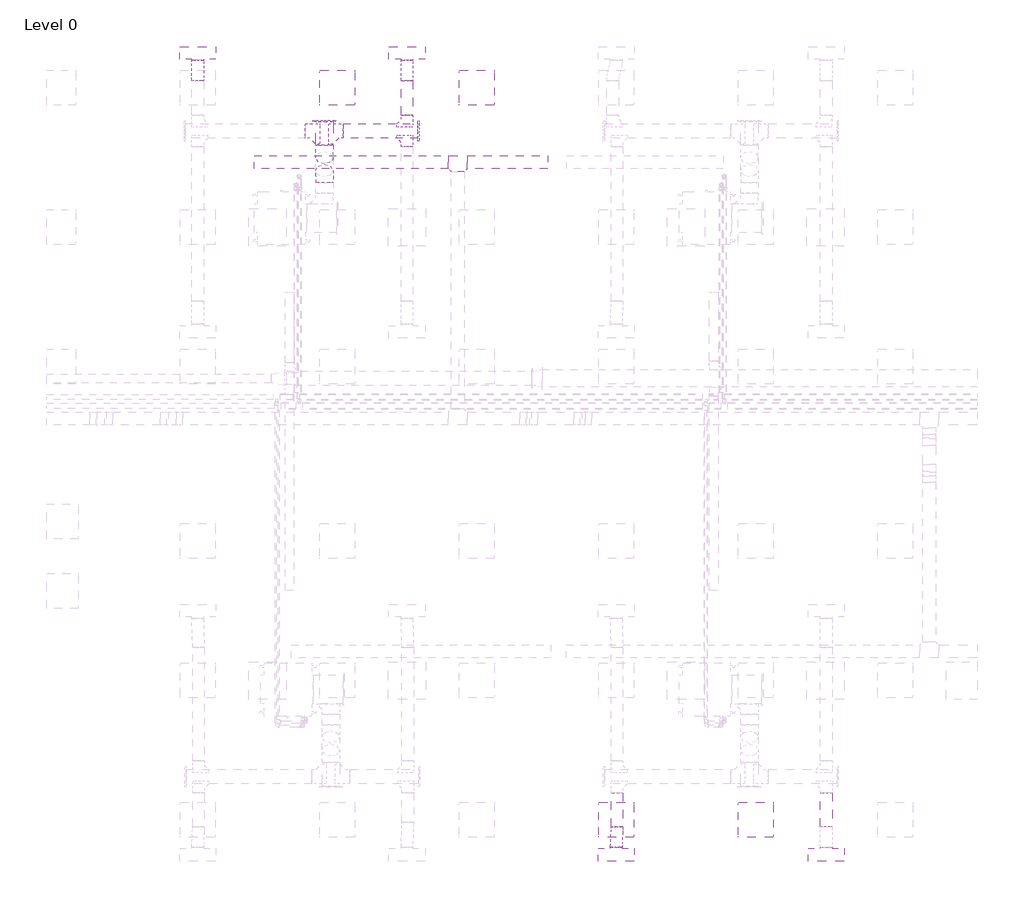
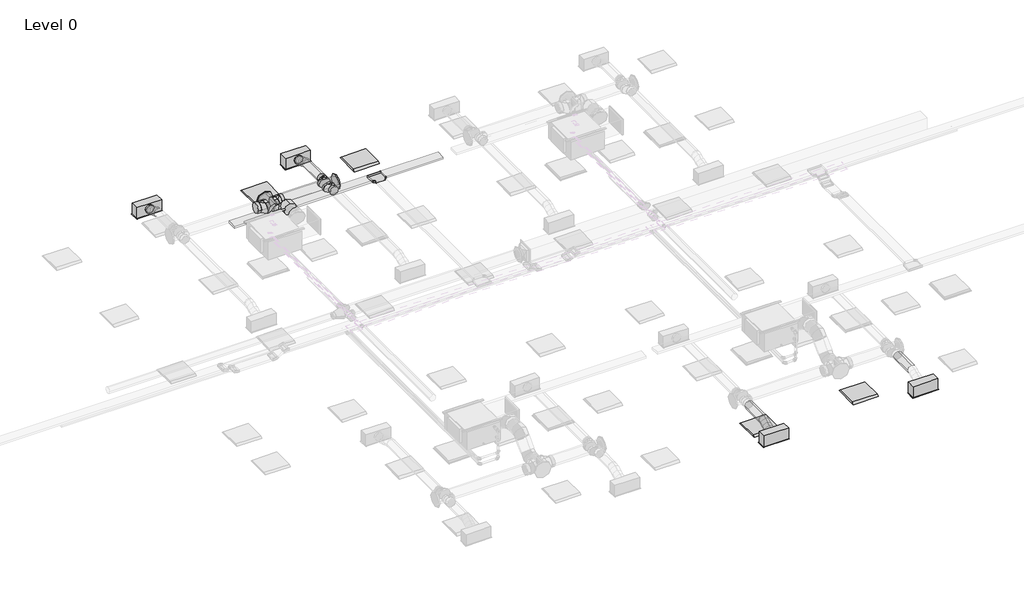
# One storey, part 7 of 34: 8 duct fittings, 8 duct segments, 4 air terminals, 4 light fixtures, 2 cable carrier segments, 1 cable carrier fitting.
"""IFC4 building model written with IfcOpenShell, lengths in millimetres."""

from ifc_helpers import new_model, si_unit, point, frame, frame_2d, origin, place, context, project, spatial, polyline, circle_curve, ellipse_curve, trimmed, segment, composite_curve, outline, extrude, transform, mapped, element, save
from ifc_brep_helpers import plane_surface, cylinder_surface, advanced_brep
from components import supply_diffuser_with_plenum_linear_slot_hosted_8c379eed, cable_tray_horizontal_tee_standard_d76b5e15, dw144_round_blank_end_standard_8c6f93a0, dw144_round_blank_end_standard_e3d0b58b, dw144_round_segmented_bend_slip_joint_standard_2e4ef361, dw144_round_shoe_branch_slip_joint1_standard_2_0dbb398a, dw144_round_shoe_branch_slip_joint1_standard_2_15a2edd8, light_fixture_1c7c1157

model = new_model("IFC4")

# Units and contexts
model_context = context("Model", 3, world=origin())
ifc_project = project(units=[si_unit("LENGTHUNIT", "METRE", prefix="MILLI")], contexts=[model_context])

# Site, building, storey
site = spatial("IfcSite", under=ifc_project)
building = spatial("IfcBuilding", under=site)
storey = spatial("IfcBuildingStorey", under=building, Name="Level 0", Elevation=0.0)

# Air terminals
placement = place(None, origin())
supply_diffuser_with_plenum_linear_slot_hosted_shape = supply_diffuser_with_plenum_linear_slot_hosted_8c379eed(model_context)
element("IfcAirTerminal", 1, ObjectType="Supply Diffuser with Plenum - Linear Slot - Hosted : 24\" x 8\"-200 In Inlet  4-Slot", at=placement, inside=storey, context=model_context, shape_type="MappedRepresentation", body=[
    mapped(supply_diffuser_with_plenum_linear_slot_hosted_shape, transform((16362.2000027, 963.2000004, 2800.0), x_axis=(1.0, 0.0, 0.0), y_axis=(0.0, -1.0, 0.0), z_axis=(0.0, 0.0, -1.0))),
])
element("IfcAirTerminal", 2, ObjectType="Supply Diffuser with Plenum - Linear Slot - Hosted : 24\" x 8\"-200 In Inlet  4-Slot", at=placement, inside=storey, context=model_context, shape_type="MappedRepresentation", body=[
    mapped(supply_diffuser_with_plenum_linear_slot_hosted_shape, transform((19973.9000022, 963.2000004, 2800.0), x_axis=(1.0, 0.0, 0.0), y_axis=(0.0, -1.0, 0.0), z_axis=(0.0, 0.0, -1.0))),
])
element("IfcAirTerminal", 3, ObjectType="Supply Diffuser with Plenum - Linear Slot - Hosted : 24\" x 8\"-200 In Inlet  4-Slot", at=placement, inside=storey, context=model_context, shape_type="MappedRepresentation", body=[
    mapped(supply_diffuser_with_plenum_linear_slot_hosted_shape, transform((9162.2000027, 14763.2000004, 2800.0), x_axis=(-1.0, 0.0, 0.0), y_axis=(0.0, 1.0, 0.0), z_axis=(0.0, 0.0, -1.0))),
])
element("IfcAirTerminal", 4, ObjectType="Supply Diffuser with Plenum - Linear Slot - Hosted : 24\" x 8\"-200 In Inlet  4-Slot", at=placement, inside=storey, context=model_context, shape_type="MappedRepresentation", body=[
    mapped(supply_diffuser_with_plenum_linear_slot_hosted_shape, transform((12762.2000027, 14763.2000004, 2800.0), x_axis=(-1.0, 0.0, 0.0), y_axis=(0.0, 1.0, 0.0), z_axis=(0.0, 0.0, -1.0))),
])

# Cable carrier fitting
cable_tray_horizontal_tee_standard_shape = cable_tray_horizontal_tee_standard_d76b5e15(model_context)
element("IfcCableCarrierFitting", 5, ObjectType="Cable Tray Horizontal Tee : Standard", at=placement, inside=storey, context=model_context, shape_type="MappedRepresentation", body=[
    mapped(cable_tray_horizontal_tee_standard_shape, transform((13637.1604219, 12884.9103775, 3275.0), x_axis=(1.0, 0.0, 0.0), y_axis=(0.0, 1.0, 0.0), z_axis=(0.0, 0.0, 1.0))),
])

# Cable carrier segments
element("IfcCableCarrierSegment", 6, ObjectType="Perforated Cable Tray", at=placement, inside=storey, context=model_context, shape_type="SweptSolid", body=[
    extrude(outline(polyline([(13474.6604219, 12997.4103775), (13474.6604219, 12772.4103775), (10137.1604219, 12772.4103775), (10137.1604219, 12997.4103775), (13474.6604219, 12997.4103775)])), frame((0.0, 0.0, 3250.0), z_axis=(0.0, 0.0, 1.0), x_axis=(1.0, 0.0, 0.0)), (0.0, 0.0, 1.0), 50.0),
])
element("IfcCableCarrierSegment", 7, ObjectType="Perforated Cable Tray", at=placement, inside=storey, context=model_context, shape_type="SweptSolid", body=[
    extrude(outline(polyline([(13799.6604219, 12772.4103775), (13799.6604219, 12997.4103775), (15186.6514471, 12997.4103775), (15186.6514471, 12772.4103775), (13799.6604219, 12772.4103775)])), frame((0.0, 0.0, 3250.0), z_axis=(0.0, 0.0, 1.0), x_axis=(1.0, 0.0, 0.0)), (0.0, 0.0, 1.0), 50.0),
])

# Duct fittings
dw144_round_blank_end_standard_shape = dw144_round_blank_end_standard_8c6f93a0(model_context)
element("IfcDuctFitting", 8, ObjectType="DW144 Round Blank End : Standard", at=placement, inside=storey, context=model_context, shape_type="MappedRepresentation", body=[
    mapped(dw144_round_blank_end_standard_shape, transform((11339.7561029, 13583.4083881, 3072.2088531), x_axis=(0.0, 1.0, 0.0), y_axis=(-1.0, 0.0, 0.0), z_axis=(0.0, 0.0, 1.0))),
])
dw144_round_blank_end_standard_2_shape = dw144_round_blank_end_standard_e3d0b58b(model_context)
element("IfcDuctFitting", 9, ObjectType="DW144 Round Blank End : Standard", at=placement, inside=storey, context=model_context, shape_type="MappedRepresentation", body=[
    mapped(dw144_round_blank_end_standard_2_shape, transform((12949.7561029, 13419.8981817, 3072.2088531), x_axis=(1.0, 0.0, 0.0), y_axis=(0.0, 1.0, 0.0), z_axis=(0.0, 0.0, 1.0))),
])
dw144_round_segmented_bend_slip_joint_standard_shape = dw144_round_segmented_bend_slip_joint_standard_2e4ef361(model_context)
element("IfcDuctFitting", 10, ObjectType="DW144 Round Segmented Bend - Slip Joint : Standard", at=placement, inside=storey, context=model_context, shape_type="MappedRepresentation", body=[
    mapped(dw144_round_segmented_bend_slip_joint_standard_shape, transform((11339.7561029, 13047.7661473, 3072.2088531), x_axis=(0.0, 0.7071067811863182, -0.7071067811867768), y_axis=(0.0, 0.7071067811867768, 0.7071067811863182), z_axis=(1.0, 0.0, 0.0))),
])
element("IfcDuctFitting", 11, ObjectType="DW144 Round Segmented Bend - Slip Joint : Standard", at=placement, inside=storey, context=model_context, shape_type="MappedRepresentation", body=[
    mapped(dw144_round_segmented_bend_slip_joint_standard_shape, transform((11339.7561029, 12650.4000004, 3469.575), x_axis=(0.0, 1.0, 0.0), y_axis=(0.0, 0.0, -1.0), z_axis=(-1.0, 0.0, 0.0))),
])
dw144_round_shoe_branch_slip_joint1_standard_2_shape = dw144_round_shoe_branch_slip_joint1_standard_2_0dbb398a(model_context)
element("IfcDuctFitting", 12, ObjectType="DW144 Round Shoe Branch - Slip Joint1 : Standard 2", at=placement, inside=storey, context=model_context, shape_type="MappedRepresentation", body=[
    mapped(dw144_round_shoe_branch_slip_joint1_standard_2_shape, transform((11489.7561029, 13419.8981817, 3072.2088531), x_axis=(1.0, 0.0, 0.0), y_axis=(0.0, -1.0, 0.0), z_axis=(0.0, 0.0, -1.0))),
])
element("IfcDuctFitting", 13, ObjectType="DW144 Round Shoe Branch - Slip Joint1 : Standard 2", at=placement, inside=storey, context=model_context, shape_type="MappedRepresentation", body=[
    mapped(dw144_round_shoe_branch_slip_joint1_standard_2_shape, transform((11189.7561029, 13419.8981817, 3072.2088531), x_axis=(-1.0, 0.0, 0.0), y_axis=(0.0, -1.0, 0.0), z_axis=(0.0, 0.0, 1.0))),
])
dw144_round_shoe_branch_slip_joint1_standard_2_2_shape = dw144_round_shoe_branch_slip_joint1_standard_2_15a2edd8(model_context)
element("IfcDuctFitting", 14, ObjectType="DW144 Round Shoe Branch - Slip Joint1 : Standard 2", at=placement, inside=storey, context=model_context, shape_type="MappedRepresentation", body=[
    mapped(dw144_round_shoe_branch_slip_joint1_standard_2_2_shape, transform((12762.2000027, 13544.8981817, 3072.2088531), x_axis=(0.0, 1.0, 0.0), y_axis=(1.0, 0.0, 0.0), z_axis=(0.0, 0.0, -1.0))),
])
element("IfcDuctFitting", 15, ObjectType="DW144 Round Shoe Branch - Slip Joint1 : Standard 2", at=placement, inside=storey, context=model_context, shape_type="MappedRepresentation", body=[
    mapped(dw144_round_shoe_branch_slip_joint1_standard_2_2_shape, transform((12762.2000027, 13294.8981817, 3072.2088531), x_axis=(0.0, -1.0, 0.0), y_axis=(1.0, 0.0, 0.0), z_axis=(0.0, 0.0, 1.0))),
])

# Duct segments
element("IfcDuctSegment", 16, ObjectType="DW144 Segmented Bend / Shoe Branch", at=placement, inside=storey, context=model_context, shape_type="SweptSolid", body=[
    extrude(outline(composite_curve([segment(trimmed(circle_curve(frame_2d((3072.2088531, 11339.7561029)), 150.0), [point((3072.2088531, 11489.7561029))], [point((3222.2088531, 11339.7561029))], False, "CARTESIAN"), True, "CONTINUOUS"), segment(trimmed(circle_curve(frame_2d((3072.2088531, 11339.7561029)), 150.0), [point((3222.2088531, 11339.7561029))], [point((3072.2088531, 11189.7561029))], False, "CARTESIAN"), True, "CONTINUOUS"), segment(trimmed(circle_curve(frame_2d((3072.2088531, 11339.7561029)), 150.0), [point((3072.2088531, 11189.7561029))], [point((2922.2088531, 11339.7561029))], False, "CARTESIAN"), True, "CONTINUOUS"), segment(trimmed(circle_curve(frame_2d((3072.2088531, 11339.7561029)), 150.0), [point((2922.2088531, 11339.7561029))], [point((3072.2088531, 11489.7561029))], False, "CARTESIAN"), True, "CONTINUOUS")], self_intersect=False)), frame((0.0, 13172.030216, 0.0), z_axis=(0.0, 1.0, 0.0), x_axis=(0.0, 0.0, 1.0)), (0.0, 0.0, 1.0), 411.3781721),
])
element("IfcDuctSegment", 17, ObjectType="DW144 Segmented Bend / Shoe Branch", at=placement, inside=storey, context=model_context, shape_type="SweptSolid", body=[
    extrude(outline(composite_curve([segment(trimmed(circle_curve(frame_2d((13419.8981817, 3072.2088531)), 125.0), [point((13294.8981817, 3072.2088531))], [point((13419.8981817, 3197.2088531))], False, "CARTESIAN"), True, "CONTINUOUS"), segment(trimmed(circle_curve(frame_2d((13419.8981817, 3072.2088531)), 125.0), [point((13419.8981817, 3197.2088531))], [point((13544.8981817, 3072.2088531))], False, "CARTESIAN"), True, "CONTINUOUS"), segment(trimmed(circle_curve(frame_2d((13419.8981817, 3072.2088531)), 125.0), [point((13544.8981817, 3072.2088531))], [point((13419.8981817, 2947.2088531))], False, "CARTESIAN"), True, "CONTINUOUS"), segment(trimmed(circle_curve(frame_2d((13419.8981817, 3072.2088531)), 125.0), [point((13419.8981817, 2947.2088531))], [point((13294.8981817, 3072.2088531))], False, "CARTESIAN"), True, "CONTINUOUS")], self_intersect=False)), frame((11664.7561029, 0.0, 0.0), z_axis=(1.0, 0.0, 0.0), x_axis=(0.0, 1.0, 0.0)), (0.0, 0.0, 1.0), 1285.0),
])
element("IfcDuctSegment", 18, ObjectType="DW144 Segmented Bend / Shoe Branch", at=placement, inside=storey, context=model_context, shape_type="SweptSolid", body=[
    extrude(outline(composite_curve([segment(trimmed(circle_curve(frame_2d((3072.2088531, 12762.2000027)), 100.0), [point((3072.2088531, 12862.2000027))], [point((3172.2088531, 12762.2000027))], False, "CARTESIAN"), True, "CONTINUOUS"), segment(trimmed(circle_curve(frame_2d((3072.2088531, 12762.2000027)), 100.0), [point((3172.2088531, 12762.2000027))], [point((3072.2088531, 12662.2000027))], False, "CARTESIAN"), True, "CONTINUOUS"), segment(trimmed(circle_curve(frame_2d((3072.2088531, 12762.2000027)), 100.0), [point((3072.2088531, 12662.2000027))], [point((2972.2088531, 12762.2000027))], False, "CARTESIAN"), True, "CONTINUOUS"), segment(trimmed(circle_curve(frame_2d((3072.2088531, 12762.2000027)), 100.0), [point((2972.2088531, 12762.2000027))], [point((3072.2088531, 12862.2000027))], False, "CARTESIAN"), True, "CONTINUOUS")], self_intersect=False)), frame((0.0, 13694.8981817, 0.0), z_axis=(0.0, 1.0, 0.0), x_axis=(0.0, 0.0, 1.0)), (0.0, 0.0, 1.0), 590.0),
])
element("IfcDuctSegment", 19, ObjectType="DW144 Segmented Bend / Shoe Branch", at=placement, inside=storey, context=model_context, shape_type="SweptSolid", body=[
    extrude(outline(composite_curve([segment(trimmed(circle_curve(frame_2d((3072.2088531, 19973.9000022)), 100.0), [point((3072.2088531, 19873.9000022))], [point((2972.2088531, 19973.9000022))], False, "CARTESIAN"), True, "CONTINUOUS"), segment(trimmed(circle_curve(frame_2d((3072.2088531, 19973.9000022)), 100.0), [point((2972.2088531, 19973.9000022))], [point((3072.2088531, 20073.9000022))], False, "CARTESIAN"), True, "CONTINUOUS"), segment(trimmed(circle_curve(frame_2d((3072.2088531, 19973.9000022)), 100.0), [point((3072.2088531, 20073.9000022))], [point((3172.2088531, 19973.9000022))], False, "CARTESIAN"), True, "CONTINUOUS"), segment(trimmed(circle_curve(frame_2d((3072.2088531, 19973.9000022)), 100.0), [point((3172.2088531, 19973.9000022))], [point((3072.2088531, 19873.9000022))], False, "CARTESIAN"), True, "CONTINUOUS")], self_intersect=False)), frame((0.0, 1441.5018192, 0.0), z_axis=(0.0, 1.0, 0.0), x_axis=(0.0, 0.0, 1.0)), (0.0, 0.0, 1.0), 590.0),
])
element("IfcDuctSegment", 20, ObjectType="DW144 Segmented Bend / Shoe Branch", at=placement, inside=storey, context=model_context, shape_type="SweptSolid", body=[
    extrude(outline(composite_curve([segment(trimmed(circle_curve(frame_2d((3072.2088531, 16373.9000022)), 100.0), [point((3072.2088531, 16473.9000022))], [point((3172.2088531, 16373.9000022))], False, "CARTESIAN"), True, "CONTINUOUS"), segment(trimmed(circle_curve(frame_2d((3072.2088531, 16373.9000022)), 100.0), [point((3172.2088531, 16373.9000022))], [point((3072.2088531, 16273.9000022))], False, "CARTESIAN"), True, "CONTINUOUS"), segment(trimmed(circle_curve(frame_2d((3072.2088531, 16373.9000022)), 100.0), [point((3072.2088531, 16273.9000022))], [point((2972.2088531, 16373.9000022))], False, "CARTESIAN"), True, "CONTINUOUS"), segment(trimmed(circle_curve(frame_2d((3072.2088531, 16373.9000022)), 100.0), [point((2972.2088531, 16373.9000022))], [point((3072.2088531, 16473.9000022))], False, "CARTESIAN"), True, "CONTINUOUS")], self_intersect=False)), frame((0.0, 1441.5018192, 0.0), z_axis=(0.0, 1.0, 0.0), x_axis=(0.0, 0.0, 1.0)), (0.0, 0.0, 1.0), 590.0),
])
element("IfcDuctSegment", 21, ObjectType="Flex - Round", at=placement, inside=storey, context=model_context, shape_type="AdvancedBrep", body=[
    advanced_brep(
    [(12662.2000027, 14284.8981817, 3072.2088531), (12762.2000027, 14284.8981817, 2972.2088531), (12862.2000027, 14284.8981817, 3072.2088531), (12762.2000027, 14284.8981817, 3172.2088531), (12662.2000027, 14305.1168804, 3072.2088531), (12762.2000027, 14291.9969011, 2972.2088531), (12862.2000027, 14305.1168804, 3072.2088531), (12762.2000027, 14318.2368598, 3172.2088531), (12662.2000027, 14634.3000004, 2954.4), (12762.2000027, 14634.3000004, 3054.4), (12862.2000027, 14634.3000004, 2954.4), (12762.2000027, 14634.3000004, 2854.4), (12662.2000027, 14374.0604937, 3053.8012198), (12762.2000027, 14339.4842635, 2959.5299419), (12862.2000027, 14374.0604937, 3053.8012198), (12762.2000027, 14408.6367238, 3148.0724978), (12662.2000027, 14459.599091, 3013.3044266), (12762.2000027, 14416.809003, 2922.9218599), (12862.2000027, 14459.599091, 3013.3044266), (12762.2000027, 14502.3891791, 3103.6869932), (12662.2000027, 14545.1376884, 2972.8076333), (12762.2000027, 14510.5614583, 2878.5363553), (12862.2000027, 14545.1376884, 2972.8076333), (12762.2000027, 14579.7139186, 3067.0789113), (12662.2000027, 14614.0813017, 2954.4), (12762.2000027, 14600.9613223, 2854.4), (12862.2000027, 14614.0813017, 2954.4), (12762.2000027, 14627.201281, 3054.4)],
    [
        (0, 1, circle_curve(frame((12762.2000027, 14284.8981817, 3072.2088531), z_axis=(0.0, -1.0, 0.0), x_axis=(-1.0, 0.0, 0.0)), 100.0)),
        (1, 2, circle_curve(frame((12762.2000027, 14284.8981817, 3072.2088531), z_axis=(0.0, -1.0, 0.0), x_axis=(-1.0, 0.0, 0.0)), 100.0)),
        (2, 3, circle_curve(frame((12762.2000027, 14284.8981817, 3072.2088531), z_axis=(0.0, -1.0, 0.0), x_axis=(-1.0, 0.0, 0.0)), 100.0)),
        (3, 0, circle_curve(frame((12762.2000027, 14284.8981817, 3072.2088531), z_axis=(0.0, -1.0, 0.0), x_axis=(-1.0, 0.0, 0.0)), 100.0)),
        (0, 4),
        (4, 5, ellipse_curve(frame((12762.2000027, 14305.1168804, 3072.2088531), z_axis=(0.0, -0.9915028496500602, 0.1300849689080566), x_axis=(0.0, -0.13008496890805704, -0.9915028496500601)), 100.8569971, 100.0)),
        (5, 1),
        (5, 6, ellipse_curve(frame((12762.2000027, 14305.1168804, 3072.2088531), z_axis=(0.0, -0.9915028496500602, 0.1300849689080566), x_axis=(0.0, -0.13008496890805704, -0.9915028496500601)), 100.8569971, 100.0)),
        (6, 2),
        (6, 7, ellipse_curve(frame((12762.2000027, 14305.1168804, 3072.2088531), z_axis=(0.0, -0.9915028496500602, 0.1300849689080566), x_axis=(0.0, -0.13008496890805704, -0.9915028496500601)), 100.8569971, 100.0)),
        (7, 3),
        (7, 4, ellipse_curve(frame((12762.2000027, 14305.1168804, 3072.2088531), z_axis=(0.0, -0.9915028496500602, 0.1300849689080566), x_axis=(0.0, -0.13008496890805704, -0.9915028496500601)), 100.8569971, 100.0)),
        (8, 9, circle_curve(frame((12762.2000027, 14634.3000004, 2954.4), z_axis=(0.0, 1.0, 0.0), x_axis=(-1.0, 0.0, 0.0)), 100.0)),
        (9, 10, circle_curve(frame((12762.2000027, 14634.3000004, 2954.4), z_axis=(0.0, 1.0, 0.0), x_axis=(-1.0, 0.0, 0.0)), 100.0)),
        (10, 11, circle_curve(frame((12762.2000027, 14634.3000004, 2954.4), z_axis=(0.0, 1.0, 0.0), x_axis=(-1.0, 0.0, 0.0)), 100.0)),
        (11, 8, circle_curve(frame((12762.2000027, 14634.3000004, 2954.4), z_axis=(0.0, 1.0, 0.0), x_axis=(-1.0, 0.0, 0.0)), 100.0)),
        (4, 12),
        (12, 13, ellipse_curve(frame((12762.2000027, 14374.0604937, 3053.8012198), z_axis=(0.0, -0.9388438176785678, 0.3443432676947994), x_axis=(0.0, -0.3443432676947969, -0.9388438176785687)), 100.4120986, 100.0)),
        (13, 5),
        (13, 14, ellipse_curve(frame((12762.2000027, 14374.0604937, 3053.8012198), z_axis=(0.0, -0.9388438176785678, 0.3443432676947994), x_axis=(0.0, -0.3443432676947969, -0.9388438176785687)), 100.4120986, 100.0)),
        (14, 6),
        (14, 15, ellipse_curve(frame((12762.2000027, 14374.0604937, 3053.8012198), z_axis=(0.0, -0.9388438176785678, 0.3443432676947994), x_axis=(0.0, -0.3443432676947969, -0.9388438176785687)), 100.4120986, 100.0)),
        (15, 7),
        (15, 12, ellipse_curve(frame((12762.2000027, 14374.0604937, 3053.8012198), z_axis=(0.0, -0.9388438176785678, 0.3443432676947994), x_axis=(0.0, -0.3443432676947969, -0.9388438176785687)), 100.4120986, 100.0)),
        (12, 16),
        (16, 17, circle_curve(frame((12762.2000027, 14459.599091, 3013.3044266), z_axis=(0.0, -0.9038256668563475, 0.42790088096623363), x_axis=(-1.0, 0.0, 0.0)), 100.0)),
        (17, 13),
        (17, 18, circle_curve(frame((12762.2000027, 14459.599091, 3013.3044266), z_axis=(0.0, -0.9038256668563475, 0.42790088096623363), x_axis=(-1.0, 0.0, 0.0)), 100.0)),
        (18, 14),
        (18, 19, circle_curve(frame((12762.2000027, 14459.599091, 3013.3044266), z_axis=(0.0, -0.9038256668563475, 0.42790088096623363), x_axis=(-1.0, 0.0, 0.0)), 100.0)),
        (19, 15),
        (19, 16, circle_curve(frame((12762.2000027, 14459.599091, 3013.3044266), z_axis=(0.0, -0.9038256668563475, 0.42790088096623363), x_axis=(-1.0, 0.0, 0.0)), 100.0)),
        (16, 20),
        (20, 21, ellipse_curve(frame((12762.2000027, 14545.1376884, 2972.8076333), z_axis=(0.0, -0.93884381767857, 0.3443432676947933), x_axis=(0.0, 0.34434326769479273, 0.9388438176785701)), 100.4120986, 100.0)),
        (21, 17),
        (21, 22, ellipse_curve(frame((12762.2000027, 14545.1376884, 2972.8076333), z_axis=(0.0, -0.93884381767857, 0.3443432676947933), x_axis=(0.0, 0.34434326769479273, 0.9388438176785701)), 100.4120986, 100.0)),
        (22, 18),
        (22, 23, ellipse_curve(frame((12762.2000027, 14545.1376884, 2972.8076333), z_axis=(0.0, -0.93884381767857, 0.3443432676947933), x_axis=(0.0, 0.34434326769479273, 0.9388438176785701)), 100.4120986, 100.0)),
        (23, 19),
        (23, 20, ellipse_curve(frame((12762.2000027, 14545.1376884, 2972.8076333), z_axis=(0.0, -0.93884381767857, 0.3443432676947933), x_axis=(0.0, 0.34434326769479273, 0.9388438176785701)), 100.4120986, 100.0)),
        (20, 24),
        (24, 25, ellipse_curve(frame((12762.2000027, 14614.0813017, 2954.4), z_axis=(0.0, -0.9915028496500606, 0.13008496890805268), x_axis=(0.0, 0.13008496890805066, 0.991502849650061)), 100.8569971, 100.0)),
        (25, 21),
        (25, 26, ellipse_curve(frame((12762.2000027, 14614.0813017, 2954.4), z_axis=(0.0, -0.9915028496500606, 0.13008496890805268), x_axis=(0.0, 0.13008496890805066, 0.991502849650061)), 100.8569971, 100.0)),
        (26, 22),
        (26, 27, ellipse_curve(frame((12762.2000027, 14614.0813017, 2954.4), z_axis=(0.0, -0.9915028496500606, 0.13008496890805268), x_axis=(0.0, 0.13008496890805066, 0.991502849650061)), 100.8569971, 100.0)),
        (27, 23),
        (27, 24, ellipse_curve(frame((12762.2000027, 14614.0813017, 2954.4), z_axis=(0.0, -0.9915028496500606, 0.13008496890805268), x_axis=(0.0, 0.13008496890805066, 0.991502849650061)), 100.8569971, 100.0)),
        (24, 8),
        (11, 25),
        (10, 26),
        (9, 27),
    ],
    [
        plane_surface(frame((12662.2000027, 14284.8981817, 3072.2088531), z_axis=(0.0, -1.0, 0.0), x_axis=(0.0, 0.0, 1.0))),
        cylinder_surface(frame((12762.2000027, 14284.8981817, 3072.2088531), z_axis=(0.0, -1.0, 0.0), x_axis=(-1.0, 0.0, 0.0)), 100.0),
        plane_surface(frame((12662.2000027, 14634.3000004, 2954.4), z_axis=(0.0, 1.0, 0.0), x_axis=(0.0, 0.0, 1.0))),
        cylinder_surface(frame((12762.2000027, 14305.1168804, 3072.2088531), z_axis=(0.0, -0.9661558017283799, 0.2579592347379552), x_axis=(-1.0, 0.0, 0.0)), 100.0),
        cylinder_surface(frame((12762.2000027, 14374.0604937, 3053.8012198), z_axis=(0.0, -0.9038256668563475, 0.42790088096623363), x_axis=(-1.0, 0.0, 0.0)), 100.0),
        cylinder_surface(frame((12762.2000027, 14459.599091, 3013.3044266), z_axis=(0.0, -0.9038256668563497, 0.427900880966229), x_axis=(-1.0, 0.0, 0.0)), 100.0),
        cylinder_surface(frame((12762.2000027, 14545.1376884, 2972.8076333), z_axis=(0.0, -0.966155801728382, 0.25795923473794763), x_axis=(-1.0, 0.0, 0.0)), 100.0),
        cylinder_surface(frame((12762.2000027, 14614.0813017, 2954.4), z_axis=(0.0, -1.0, 0.0), x_axis=(-1.0, 0.0, 0.0)), 100.0),
    ],
    [
        (0, [[1, 2, 3, 4]]),
        (1, [[-1, 5, 6, 7]]),
        (1, [[-2, -7, 8, 9]]),
        (1, [[-3, -9, 10, 11]]),
        (1, [[-4, -11, 12, -5]]),
        (2, [[13, 14, 15, 16]]),
        (3, [[-6, 17, 18, 19]]),
        (3, [[-8, -19, 20, 21]]),
        (3, [[-10, -21, 22, 23]]),
        (3, [[-12, -23, 24, -17]]),
        (4, [[-18, 25, 26, 27]]),
        (4, [[-20, -27, 28, 29]]),
        (4, [[-22, -29, 30, 31]]),
        (4, [[-24, -31, 32, -25]]),
        (5, [[-26, 33, 34, 35]]),
        (5, [[-28, -35, 36, 37]]),
        (5, [[-30, -37, 38, 39]]),
        (5, [[-32, -39, 40, -33]]),
        (6, [[-34, 41, 42, 43]]),
        (6, [[-36, -43, 44, 45]]),
        (6, [[-38, -45, 46, 47]]),
        (6, [[-40, -47, 48, -41]]),
        (7, [[-42, 49, -16, 50]]),
        (7, [[-44, -50, -15, 51]]),
        (7, [[-46, -51, -14, 52]]),
        (7, [[-48, -52, -13, -49]]),
    ],
),
])
element("IfcDuctSegment", 22, ObjectType="Flex - Round", at=placement, inside=storey, context=model_context, shape_type="AdvancedBrep", body=[
    advanced_brep(
    [(9062.2000027, 14284.8981817, 3072.2088531), (9162.2000027, 14284.8981817, 2972.2088531), (9262.2000027, 14284.8981817, 3072.2088531), (9162.2000027, 14284.8981817, 3172.2088531), (9062.2000027, 14305.1168804, 3072.2088531), (9162.2000027, 14291.9969011, 2972.2088531), (9262.2000027, 14305.1168804, 3072.2088531), (9162.2000027, 14318.2368598, 3172.2088531), (9062.2000027, 14634.3000004, 2954.4), (9162.2000027, 14634.3000004, 3054.4), (9262.2000027, 14634.3000004, 2954.4), (9162.2000027, 14634.3000004, 2854.4), (9062.2000027, 14374.0604937, 3053.8012198), (9162.2000027, 14339.4842635, 2959.5299419), (9262.2000027, 14374.0604937, 3053.8012198), (9162.2000027, 14408.6367238, 3148.0724978), (9062.2000027, 14459.599091, 3013.3044266), (9162.2000027, 14416.809003, 2922.9218599), (9262.2000027, 14459.599091, 3013.3044266), (9162.2000027, 14502.3891791, 3103.6869932), (9062.2000027, 14545.1376884, 2972.8076333), (9162.2000027, 14510.5614583, 2878.5363553), (9262.2000027, 14545.1376884, 2972.8076333), (9162.2000027, 14579.7139186, 3067.0789113), (9062.2000027, 14614.0813017, 2954.4), (9162.2000027, 14600.9613223, 2854.4), (9262.2000027, 14614.0813017, 2954.4), (9162.2000027, 14627.201281, 3054.4)],
    [
        (0, 1, circle_curve(frame((9162.2000027, 14284.8981817, 3072.2088531), z_axis=(0.0, -1.0, 0.0), x_axis=(-1.0, 0.0, 0.0)), 100.0)),
        (1, 2, circle_curve(frame((9162.2000027, 14284.8981817, 3072.2088531), z_axis=(0.0, -1.0, 0.0), x_axis=(-1.0, 0.0, 0.0)), 100.0)),
        (2, 3, circle_curve(frame((9162.2000027, 14284.8981817, 3072.2088531), z_axis=(0.0, -1.0, 0.0), x_axis=(-1.0, 0.0, 0.0)), 100.0)),
        (3, 0, circle_curve(frame((9162.2000027, 14284.8981817, 3072.2088531), z_axis=(0.0, -1.0, 0.0), x_axis=(-1.0, 0.0, 0.0)), 100.0)),
        (0, 4),
        (4, 5, ellipse_curve(frame((9162.2000027, 14305.1168804, 3072.2088531), z_axis=(0.0, -0.9915028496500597, 0.13008496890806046), x_axis=(0.0, -0.13008496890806, -0.9915028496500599)), 100.8569971, 100.0)),
        (5, 1),
        (5, 6, ellipse_curve(frame((9162.2000027, 14305.1168804, 3072.2088531), z_axis=(0.0, -0.9915028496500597, 0.13008496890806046), x_axis=(0.0, -0.13008496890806, -0.9915028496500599)), 100.8569971, 100.0)),
        (6, 2),
        (6, 7, ellipse_curve(frame((9162.2000027, 14305.1168804, 3072.2088531), z_axis=(0.0, -0.9915028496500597, 0.13008496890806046), x_axis=(0.0, -0.13008496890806, -0.9915028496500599)), 100.8569971, 100.0)),
        (7, 3),
        (7, 4, ellipse_curve(frame((9162.2000027, 14305.1168804, 3072.2088531), z_axis=(0.0, -0.9915028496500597, 0.13008496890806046), x_axis=(0.0, -0.13008496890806, -0.9915028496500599)), 100.8569971, 100.0)),
        (8, 9, circle_curve(frame((9162.2000027, 14634.3000004, 2954.4), z_axis=(0.0, 1.0, 0.0), x_axis=(-1.0, 0.0, 0.0)), 100.0)),
        (9, 10, circle_curve(frame((9162.2000027, 14634.3000004, 2954.4), z_axis=(0.0, 1.0, 0.0), x_axis=(-1.0, 0.0, 0.0)), 100.0)),
        (10, 11, circle_curve(frame((9162.2000027, 14634.3000004, 2954.4), z_axis=(0.0, 1.0, 0.0), x_axis=(-1.0, 0.0, 0.0)), 100.0)),
        (11, 8, circle_curve(frame((9162.2000027, 14634.3000004, 2954.4), z_axis=(0.0, 1.0, 0.0), x_axis=(-1.0, 0.0, 0.0)), 100.0)),
        (4, 12),
        (12, 13, ellipse_curve(frame((9162.2000027, 14374.0604937, 3053.8012198), z_axis=(0.0, -0.9388438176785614, 0.3443432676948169), x_axis=(0.0, -0.34434326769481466, -0.9388438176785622)), 100.4120986, 100.0)),
        (13, 5),
        (13, 14, ellipse_curve(frame((9162.2000027, 14374.0604937, 3053.8012198), z_axis=(0.0, -0.9388438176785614, 0.3443432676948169), x_axis=(0.0, -0.34434326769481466, -0.9388438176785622)), 100.4120986, 100.0)),
        (14, 6),
        (14, 15, ellipse_curve(frame((9162.2000027, 14374.0604937, 3053.8012198), z_axis=(0.0, -0.9388438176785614, 0.3443432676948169), x_axis=(0.0, -0.34434326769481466, -0.9388438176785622)), 100.4120986, 100.0)),
        (15, 7),
        (15, 12, ellipse_curve(frame((9162.2000027, 14374.0604937, 3053.8012198), z_axis=(0.0, -0.9388438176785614, 0.3443432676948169), x_axis=(0.0, -0.34434326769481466, -0.9388438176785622)), 100.4120986, 100.0)),
        (12, 16),
        (16, 17, circle_curve(frame((9162.2000027, 14459.599091, 3013.3044266), z_axis=(0.0, -0.9038256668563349, 0.42790088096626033), x_axis=(-1.0, 0.0, 0.0)), 100.0)),
        (17, 13),
        (17, 18, circle_curve(frame((9162.2000027, 14459.599091, 3013.3044266), z_axis=(0.0, -0.9038256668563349, 0.42790088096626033), x_axis=(-1.0, 0.0, 0.0)), 100.0)),
        (18, 14),
        (18, 19, circle_curve(frame((9162.2000027, 14459.599091, 3013.3044266), z_axis=(0.0, -0.9038256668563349, 0.42790088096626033), x_axis=(-1.0, 0.0, 0.0)), 100.0)),
        (19, 15),
        (19, 16, circle_curve(frame((9162.2000027, 14459.599091, 3013.3044266), z_axis=(0.0, -0.9038256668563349, 0.42790088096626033), x_axis=(-1.0, 0.0, 0.0)), 100.0)),
        (16, 20),
        (20, 21, ellipse_curve(frame((9162.2000027, 14545.1376884, 2972.8076333), z_axis=(0.0, -0.9388438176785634, 0.34434326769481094), x_axis=(0.0, 0.34434326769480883, 0.9388438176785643)), 100.4120986, 100.0)),
        (21, 17),
        (21, 22, ellipse_curve(frame((9162.2000027, 14545.1376884, 2972.8076333), z_axis=(0.0, -0.9388438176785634, 0.34434326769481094), x_axis=(0.0, 0.34434326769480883, 0.9388438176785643)), 100.4120986, 100.0)),
        (22, 18),
        (22, 23, ellipse_curve(frame((9162.2000027, 14545.1376884, 2972.8076333), z_axis=(0.0, -0.9388438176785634, 0.34434326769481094), x_axis=(0.0, 0.34434326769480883, 0.9388438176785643)), 100.4120986, 100.0)),
        (23, 19),
        (23, 20, ellipse_curve(frame((9162.2000027, 14545.1376884, 2972.8076333), z_axis=(0.0, -0.9388438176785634, 0.34434326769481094), x_axis=(0.0, 0.34434326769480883, 0.9388438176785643)), 100.4120986, 100.0)),
        (20, 24),
        (24, 25, ellipse_curve(frame((9162.2000027, 14614.0813017, 2954.4), z_axis=(0.0, -0.9915028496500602, 0.1300849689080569), x_axis=(0.0, 0.13008496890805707, 0.9915028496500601)), 100.8569971, 100.0)),
        (25, 21),
        (25, 26, ellipse_curve(frame((9162.2000027, 14614.0813017, 2954.4), z_axis=(0.0, -0.9915028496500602, 0.1300849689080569), x_axis=(0.0, 0.13008496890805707, 0.9915028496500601)), 100.8569971, 100.0)),
        (26, 22),
        (26, 27, ellipse_curve(frame((9162.2000027, 14614.0813017, 2954.4), z_axis=(0.0, -0.9915028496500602, 0.1300849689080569), x_axis=(0.0, 0.13008496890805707, 0.9915028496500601)), 100.8569971, 100.0)),
        (27, 23),
        (27, 24, ellipse_curve(frame((9162.2000027, 14614.0813017, 2954.4), z_axis=(0.0, -0.9915028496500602, 0.1300849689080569), x_axis=(0.0, 0.13008496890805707, 0.9915028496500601)), 100.8569971, 100.0)),
        (24, 8),
        (11, 25),
        (10, 26),
        (9, 27),
    ],
    [
        plane_surface(frame((9062.2000027, 14284.8981817, 3072.2088531), z_axis=(0.0, -1.0, 0.0), x_axis=(0.0, 0.0, 1.0))),
        cylinder_surface(frame((9162.2000027, 14284.8981817, 3072.2088531), z_axis=(0.0, -1.0, 0.0), x_axis=(-1.0, 0.0, 0.0)), 100.0),
        plane_surface(frame((9062.2000027, 14634.3000004, 2954.4), z_axis=(0.0, 1.0, 0.0), x_axis=(0.0, 0.0, 1.0))),
        cylinder_surface(frame((9162.2000027, 14305.1168804, 3072.2088531), z_axis=(0.0, -0.9661558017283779, 0.25795923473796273), x_axis=(-1.0, 0.0, 0.0)), 100.0),
        cylinder_surface(frame((9162.2000027, 14374.0604937, 3053.8012198), z_axis=(0.0, -0.9038256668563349, 0.42790088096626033), x_axis=(-1.0, 0.0, 0.0)), 100.0),
        cylinder_surface(frame((9162.2000027, 14459.599091, 3013.3044266), z_axis=(0.0, -0.9038256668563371, 0.4279008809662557), x_axis=(-1.0, 0.0, 0.0)), 100.0),
        cylinder_surface(frame((9162.2000027, 14545.1376884, 2972.8076333), z_axis=(0.0, -0.9661558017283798, 0.25795923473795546), x_axis=(-1.0, 0.0, 0.0)), 100.0),
        cylinder_surface(frame((9162.2000027, 14614.0813017, 2954.4), z_axis=(0.0, -1.0, 0.0), x_axis=(-1.0, 0.0, 0.0)), 100.0),
    ],
    [
        (0, [[1, 2, 3, 4]]),
        (1, [[-1, 5, 6, 7]]),
        (1, [[-2, -7, 8, 9]]),
        (1, [[-3, -9, 10, 11]]),
        (1, [[-4, -11, 12, -5]]),
        (2, [[13, 14, 15, 16]]),
        (3, [[-6, 17, 18, 19]]),
        (3, [[-8, -19, 20, 21]]),
        (3, [[-10, -21, 22, 23]]),
        (3, [[-12, -23, 24, -17]]),
        (4, [[-18, 25, 26, 27]]),
        (4, [[-20, -27, 28, 29]]),
        (4, [[-22, -29, 30, 31]]),
        (4, [[-24, -31, 32, -25]]),
        (5, [[-26, 33, 34, 35]]),
        (5, [[-28, -35, 36, 37]]),
        (5, [[-30, -37, 38, 39]]),
        (5, [[-32, -39, 40, -33]]),
        (6, [[-34, 41, 42, 43]]),
        (6, [[-36, -43, 44, 45]]),
        (6, [[-38, -45, 46, 47]]),
        (6, [[-40, -47, 48, -41]]),
        (7, [[-42, 49, -16, 50]]),
        (7, [[-44, -50, -15, 51]]),
        (7, [[-46, -51, -14, 52]]),
        (7, [[-48, -52, -13, -49]]),
    ],
),
])
element("IfcDuctSegment", 23, ObjectType="Flex - Round", at=placement, inside=storey, context=model_context, shape_type="AdvancedBrep", body=[
    advanced_brep(
    [(16473.9000022, 1441.5018192, 3072.2088531), (16373.9000022, 1441.5018192, 2972.2088531), (16273.9000022, 1441.5018192, 3072.2088531), (16373.9000022, 1441.5018192, 3172.2088531), (16473.9000022, 1419.9886644, 3072.2088531), (16373.9000022, 1434.4041273, 2972.2088531), (16273.9000022, 1422.5932881, 3072.2088531), (16373.9000022, 1408.1778252, 3172.2088531), (16462.2000027, 1092.1000004, 2954.4), (16362.2000027, 1092.1000004, 3054.4), (16262.2000027, 1092.1000004, 2954.4), (16362.2000027, 1092.1000004, 2854.4), (16472.0154345, 1348.8904029, 3053.2328893), (16372.6402079, 1386.8764181, 2959.5238159), (16272.1283201, 1355.7538157, 3054.3695504), (16371.5035467, 1317.7678004, 3148.0786237), (16467.9552415, 1262.5544078, 3012.3502664), (16369.0041626, 1309.5595036, 2922.9119919), (16268.1447633, 1271.0474118, 3014.2585867), (16367.0958423, 1224.0423161, 3103.6968612), (16463.9716847, 1177.8480039, 2972.2393027), (16364.5964582, 1215.8340192, 2878.5302294), (16264.0845704, 1184.7114168, 2973.3759639), (16363.459797, 1146.7254015, 3067.0850372), (16462.2000027, 1111.0085316, 2954.4), (16362.2000027, 1125.4239944, 2854.4), (16262.2000027, 1113.6131552, 2954.4), (16362.2000027, 1099.1976924, 3054.4)],
    [
        (0, 1, circle_curve(frame((16373.9000022, 1441.5018192, 3072.2088531), z_axis=(0.0, 1.0, 0.0), x_axis=(1.0, 0.0, 0.0)), 100.0)),
        (1, 2, circle_curve(frame((16373.9000022, 1441.5018192, 3072.2088531), z_axis=(0.0, 1.0, 0.0), x_axis=(1.0, 0.0, 0.0)), 100.0)),
        (2, 3, circle_curve(frame((16373.9000022, 1441.5018192, 3072.2088531), z_axis=(0.0, 1.0, 0.0), x_axis=(1.0, 0.0, 0.0)), 100.0)),
        (3, 0, circle_curve(frame((16373.9000022, 1441.5018192, 3072.2088531), z_axis=(0.0, 1.0, 0.0), x_axis=(1.0, 0.0, 0.0)), 100.0)),
        (0, 4),
        (4, 5, ellipse_curve(frame((16373.9000022, 1421.2909763, 3072.2088531), z_axis=(0.012911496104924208, 0.9914289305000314, 0.1300075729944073), x_axis=(-0.09798018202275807, 0.130647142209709, -0.9865754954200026)), 100.8645168, 100.0)),
        (5, 1),
        (5, 6, ellipse_curve(frame((16373.9000022, 1421.2909763, 3072.2088531), z_axis=(0.012911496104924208, 0.9914289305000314, 0.1300075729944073), x_axis=(-0.09798018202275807, 0.130647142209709, -0.9865754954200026)), 100.8645168, 100.0)),
        (6, 2),
        (6, 7, ellipse_curve(frame((16373.9000022, 1421.2909763, 3072.2088531), z_axis=(0.012911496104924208, 0.9914289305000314, 0.1300075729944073), x_axis=(-0.09798018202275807, 0.130647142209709, -0.9865754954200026)), 100.8645168, 100.0)),
        (7, 3),
        (7, 4, ellipse_curve(frame((16373.9000022, 1421.2909763, 3072.2088531), z_axis=(0.012911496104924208, 0.9914289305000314, 0.1300075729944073), x_axis=(-0.09798018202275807, 0.130647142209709, -0.9865754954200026)), 100.8645168, 100.0)),
        (8, 9, circle_curve(frame((16362.2000027, 1092.1000004, 2954.4), z_axis=(0.0, -1.0, 0.0), x_axis=(1.0, 0.0, 0.0)), 100.0)),
        (9, 10, circle_curve(frame((16362.2000027, 1092.1000004, 2954.4), z_axis=(0.0, -1.0, 0.0), x_axis=(1.0, 0.0, 0.0)), 100.0)),
        (10, 11, circle_curve(frame((16362.2000027, 1092.1000004, 2954.4), z_axis=(0.0, -1.0, 0.0), x_axis=(1.0, 0.0, 0.0)), 100.0)),
        (11, 8, circle_curve(frame((16362.2000027, 1092.1000004, 2954.4), z_axis=(0.0, -1.0, 0.0), x_axis=(1.0, 0.0, 0.0)), 100.0)),
        (4, 12),
        (12, 13, ellipse_curve(frame((16372.0718773, 1352.3221093, 3053.8012198), z_axis=(0.03417490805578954, 0.9383065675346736, 0.3441116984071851), x_axis=(-0.09273024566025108, 0.34580454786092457, -0.933713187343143)), 100.4159667, 100.0)),
        (13, 5),
        (13, 14, ellipse_curve(frame((16372.0718773, 1352.3221093, 3053.8012198), z_axis=(0.03417490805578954, 0.9383065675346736, 0.3441116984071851), x_axis=(-0.09273024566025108, 0.34580454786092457, -0.933713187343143)), 100.4159667, 100.0)),
        (14, 6),
        (14, 15, ellipse_curve(frame((16372.0718773, 1352.3221093, 3053.8012198), z_axis=(0.03417490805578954, 0.9383065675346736, 0.3441116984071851), x_axis=(-0.09273024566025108, 0.34580454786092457, -0.933713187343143)), 100.4159667, 100.0)),
        (15, 7),
        (15, 12, ellipse_curve(frame((16372.0718773, 1352.3221093, 3053.8012198), z_axis=(0.03417490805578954, 0.9383065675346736, 0.3441116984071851), x_axis=(-0.09273024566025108, 0.34580454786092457, -0.933713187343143)), 100.4159667, 100.0)),
        (12, 16),
        (16, 17, circle_curve(frame((16368.0500024, 1266.8009098, 3013.3044266), z_axis=(0.04246501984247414, 0.9029767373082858, 0.42758593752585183), x_axis=(0.9990523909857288, -0.04246501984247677, -0.009541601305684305)), 100.0)),
        (17, 13),
        (17, 18, circle_curve(frame((16368.0500024, 1266.8009098, 3013.3044266), z_axis=(0.04246501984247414, 0.9029767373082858, 0.42758593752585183), x_axis=(0.9990523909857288, -0.04246501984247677, -0.009541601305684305)), 100.0)),
        (18, 14),
        (18, 19, circle_curve(frame((16368.0500024, 1266.8009098, 3013.3044266), z_axis=(0.04246501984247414, 0.9029767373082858, 0.42758593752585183), x_axis=(0.9990523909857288, -0.04246501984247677, -0.009541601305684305)), 100.0)),
        (19, 15),
        (19, 16, circle_curve(frame((16368.0500024, 1266.8009098, 3013.3044266), z_axis=(0.04246501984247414, 0.9029767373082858, 0.42758593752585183), x_axis=(0.9990523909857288, -0.04246501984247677, -0.009541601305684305)), 100.0)),
        (16, 20),
        (20, 21, ellipse_curve(frame((16364.0281276, 1181.2797104, 2972.8076333), z_axis=(0.034174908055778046, 0.9383065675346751, 0.3441116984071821), x_axis=(0.09273024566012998, -0.3458045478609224, 0.9337131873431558)), 100.4159667, 100.0)),
        (21, 17),
        (21, 22, ellipse_curve(frame((16364.0281276, 1181.2797104, 2972.8076333), z_axis=(0.034174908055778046, 0.9383065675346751, 0.3441116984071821), x_axis=(0.09273024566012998, -0.3458045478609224, 0.9337131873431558)), 100.4159667, 100.0)),
        (22, 18),
        (22, 23, ellipse_curve(frame((16364.0281276, 1181.2797104, 2972.8076333), z_axis=(0.034174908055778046, 0.9383065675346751, 0.3441116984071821), x_axis=(0.09273024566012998, -0.3458045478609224, 0.9337131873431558)), 100.4159667, 100.0)),
        (23, 19),
        (23, 20, ellipse_curve(frame((16364.0281276, 1181.2797104, 2972.8076333), z_axis=(0.034174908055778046, 0.9383065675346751, 0.3441116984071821), x_axis=(0.09273024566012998, -0.3458045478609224, 0.9337131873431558)), 100.4159667, 100.0)),
        (20, 24),
        (24, 25, ellipse_curve(frame((16362.2000027, 1112.3108434, 2954.4), z_axis=(0.012911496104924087, 0.9914289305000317, 0.13000757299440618), x_axis=(0.09798018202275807, -0.13064714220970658, 0.9865754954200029)), 100.8645168, 100.0)),
        (25, 21),
        (25, 26, ellipse_curve(frame((16362.2000027, 1112.3108434, 2954.4), z_axis=(0.012911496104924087, 0.9914289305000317, 0.13000757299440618), x_axis=(0.09798018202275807, -0.13064714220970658, 0.9865754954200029)), 100.8645168, 100.0)),
        (26, 22),
        (26, 27, ellipse_curve(frame((16362.2000027, 1112.3108434, 2954.4), z_axis=(0.012911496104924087, 0.9914289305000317, 0.13000757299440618), x_axis=(0.09798018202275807, -0.13064714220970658, 0.9865754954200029)), 100.8645168, 100.0)),
        (27, 23),
        (27, 24, ellipse_curve(frame((16362.2000027, 1112.3108434, 2954.4), z_axis=(0.012911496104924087, 0.9914289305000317, 0.13000757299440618), x_axis=(0.09798018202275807, -0.13064714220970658, 0.9865754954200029)), 100.8645168, 100.0)),
        (24, 8),
        (11, 25),
        (10, 26),
        (9, 27),
    ],
    [
        plane_surface(frame((16273.9000022, 1441.5018192, 3072.2088531), z_axis=(0.0, 1.0, 0.0), x_axis=(0.0, 0.0, -1.0))),
        cylinder_surface(frame((16373.9000022, 1441.5018192, 3072.2088531), z_axis=(0.0, 1.0, 0.0), x_axis=(1.0, 0.0, 0.0)), 100.0),
        plane_surface(frame((16262.2000027, 1092.1000004, 2954.4), z_axis=(0.0, -1.0, 0.0), x_axis=(0.0, 0.0, -1.0))),
        cylinder_surface(frame((16373.9000022, 1421.2909763, 3072.2088531), z_axis=(0.025601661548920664, 0.9658626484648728, 0.25778653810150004), x_axis=(0.9996665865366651, -0.02560166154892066, -0.0033571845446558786)), 100.0),
        cylinder_surface(frame((16372.0718773, 1352.3221093, 3053.8012198), z_axis=(0.04246501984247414, 0.9029767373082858, 0.42758593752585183), x_axis=(0.9990523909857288, -0.04246501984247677, -0.009541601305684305)), 100.0),
        cylinder_surface(frame((16368.0500024, 1266.8009098, 3013.3044266), z_axis=(0.04246501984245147, 0.9029767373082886, 0.42758593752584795), x_axis=(0.9990523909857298, -0.04246501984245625, -0.00954160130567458)), 100.0),
        cylinder_surface(frame((16364.0281276, 1181.2797104, 2972.8076333), z_axis=(0.025601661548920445, 0.9658626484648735, 0.257786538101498), x_axis=(0.9996665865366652, -0.02560166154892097, -0.003357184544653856)), 100.0),
        cylinder_surface(frame((16362.2000027, 1112.3108434, 2954.4), z_axis=(0.0, 1.0, 0.0), x_axis=(1.0, 0.0, 0.0)), 100.0),
    ],
    [
        (0, [[1, 2, 3, 4]]),
        (1, [[-1, 5, 6, 7]]),
        (1, [[-2, -7, 8, 9]]),
        (1, [[-3, -9, 10, 11]]),
        (1, [[-4, -11, 12, -5]]),
        (2, [[13, 14, 15, 16]]),
        (3, [[-6, 17, 18, 19]]),
        (3, [[-8, -19, 20, 21]]),
        (3, [[-10, -21, 22, 23]]),
        (3, [[-12, -23, 24, -17]]),
        (4, [[-18, 25, 26, 27]]),
        (4, [[-20, -27, 28, 29]]),
        (4, [[-22, -29, 30, 31]]),
        (4, [[-24, -31, 32, -25]]),
        (5, [[-26, 33, 34, 35]]),
        (5, [[-28, -35, 36, 37]]),
        (5, [[-30, -37, 38, 39]]),
        (5, [[-32, -39, 40, -33]]),
        (6, [[-34, 41, 42, 43]]),
        (6, [[-36, -43, 44, 45]]),
        (6, [[-38, -45, 46, 47]]),
        (6, [[-40, -47, 48, -41]]),
        (7, [[-42, 49, -16, 50]]),
        (7, [[-44, -50, -15, 51]]),
        (7, [[-46, -51, -14, 52]]),
        (7, [[-48, -52, -13, -49]]),
    ],
),
])

# Light fixtures
light_fixture_shape = light_fixture_1c7c1157(model_context)
element("IfcLightFixture", 24, ObjectType="ELEKTRA Plain Recessed Lighting Fixture : 24\" x 24\" - 230", at=placement, inside=storey, context=model_context, shape_type="MappedRepresentation", body=[
    mapped(light_fixture_shape, transform((16062.2000027, 1263.2000004, 2800.0), x_axis=(1.0, 0.0, 0.0), y_axis=(0.0, -1.0, 0.0), z_axis=(0.0, 0.0, -1.0))),
])
element("IfcLightFixture", 25, ObjectType="ELEKTRA Plain Recessed Lighting Fixture : 24\" x 24\" - 230", at=placement, inside=storey, context=model_context, shape_type="MappedRepresentation", body=[
    mapped(light_fixture_shape, transform((18462.2000027, 1263.2000004, 2800.0), x_axis=(1.0, 0.0, 0.0), y_axis=(0.0, -1.0, 0.0), z_axis=(0.0, 0.0, -1.0))),
])
element("IfcLightFixture", 26, ObjectType="ELEKTRA Plain Recessed Lighting Fixture : 24\" x 24\" - 230", at=placement, inside=storey, context=model_context, shape_type="MappedRepresentation", body=[
    mapped(light_fixture_shape, transform((11262.2000027, 13863.2000004, 2800.0), x_axis=(1.0, 0.0, 0.0), y_axis=(0.0, -1.0, 0.0), z_axis=(0.0, 0.0, -1.0))),
])
element("IfcLightFixture", 27, ObjectType="ELEKTRA Plain Recessed Lighting Fixture : 24\" x 24\" - 230", at=placement, inside=storey, context=model_context, shape_type="MappedRepresentation", body=[
    mapped(light_fixture_shape, transform((13662.2000027, 13863.2000004, 2800.0), x_axis=(1.0, 0.0, 0.0), y_axis=(0.0, -1.0, 0.0), z_axis=(0.0, 0.0, -1.0))),
])

save(model, "model.ifc")
